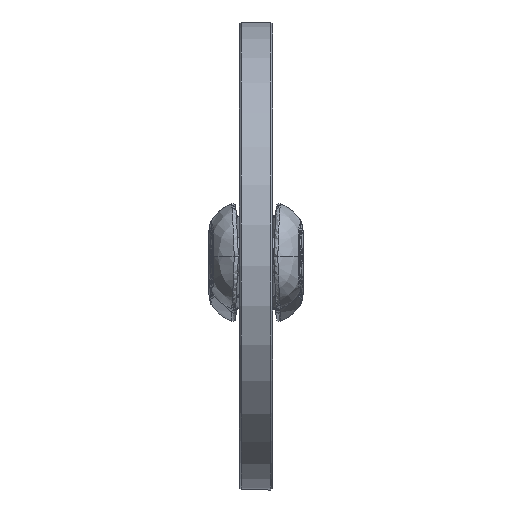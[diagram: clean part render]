
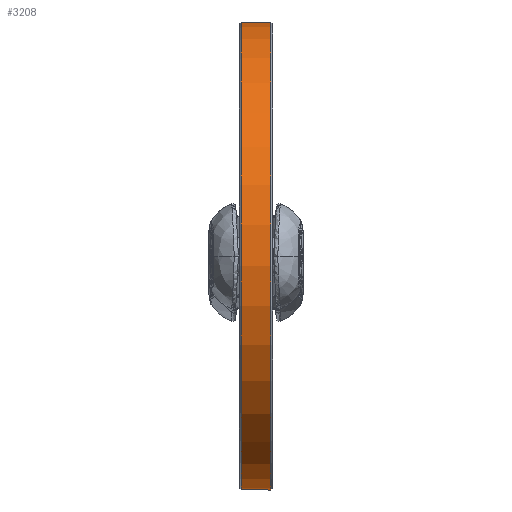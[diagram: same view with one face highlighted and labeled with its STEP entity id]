
A CAD part, top view. The second image highlights one B-rep face of the part: STEP entity #3208.
In plain terms, the highlighted cylindrical face has radius 672.5 mm (diameter 1345 mm), a full revolution.
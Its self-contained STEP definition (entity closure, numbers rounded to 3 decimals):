
#647=CYLINDRICAL_SURFACE($,#3566,672.5);
#774=FACE_BOUND($,#1320,.T.);
#990=FACE_OUTER_BOUND($,#1319,.T.);
#1319=EDGE_LOOP($,(#2938));
#1320=EDGE_LOOP($,(#2939));
#1511=CIRCLE($,#3565,672.5);
#1512=CIRCLE($,#3567,672.5);
#1789=VERTEX_POINT($,#14201);
#1790=VERTEX_POINT($,#14204);
#2177=EDGE_CURVE($,#1789,#1789,#1511,.T.);
#2178=EDGE_CURVE($,#1790,#1790,#1512,.T.);
#2938=ORIENTED_EDGE($,*,*,#2178,.F.);
#2939=ORIENTED_EDGE($,*,*,#2177,.F.);
#3208=ADVANCED_FACE($,(#990,#774),#647,.T.);
#3565=AXIS2_PLACEMENT_3D($,#14202,#4302,#4303);
#3566=AXIS2_PLACEMENT_3D($,#14203,#4304,#4305);
#3567=AXIS2_PLACEMENT_3D($,#14205,#4306,#4307);
#4302=DIRECTION('center_axis',(0.,0.,-1.));
#4303=DIRECTION('ref_axis',(-1.,0.,0.));
#4304=DIRECTION('center_axis',(0.,0.,1.));
#4305=DIRECTION('ref_axis',(-1.,0.,0.));
#4306=DIRECTION('center_axis',(0.,0.,1.));
#4307=DIRECTION('ref_axis',(-1.,0.,0.));
#14201=CARTESIAN_POINT('',(672.5,0.,-42.5));
#14202=CARTESIAN_POINT('Origin',(0.,0.,-42.5));
#14203=CARTESIAN_POINT('Origin',(0.,0.,0.));
#14204=CARTESIAN_POINT('',(672.5,0.,42.5));
#14205=CARTESIAN_POINT('Origin',(0.,0.,42.5));
